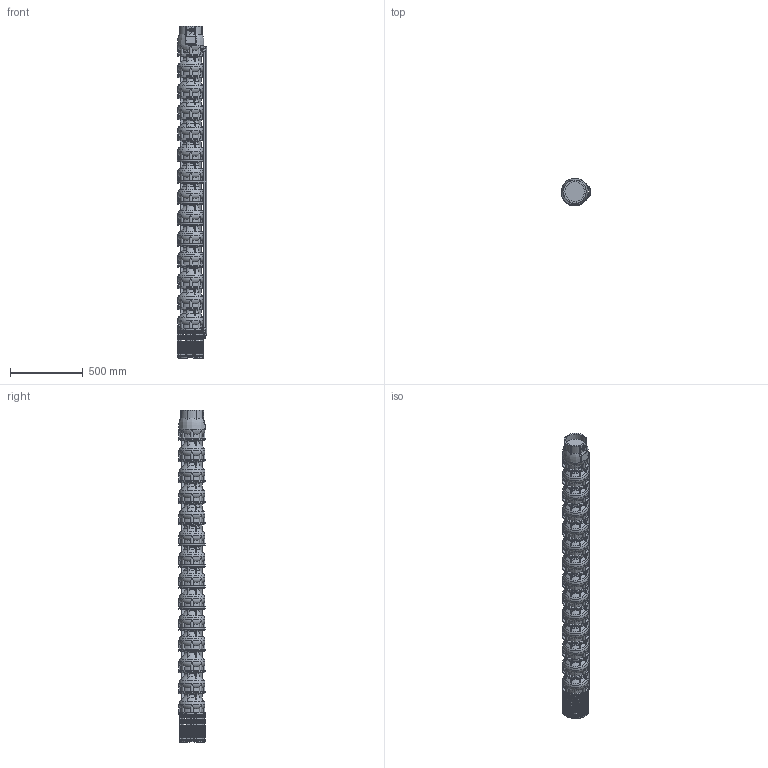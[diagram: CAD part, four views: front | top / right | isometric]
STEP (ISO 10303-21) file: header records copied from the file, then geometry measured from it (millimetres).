
FILE_DESCRIPTION(/* description */ ('Unknown'),/* implementation_level */ '2;1');
FILE_NAME(/* name */ 'VSI134-13_WR_M8-50_DLE',/* time_stamp */ '2023-09-14T14:36:01+02:00',/* author */ ('Unknown'),/* organization */ ('Unknown'),/* preprocessor_version */ 'ST-DEVELOPER v18.102',/* originating_system */ 'Solid Edge',/* authorisation */ 'Unknown');
FILE_SCHEMA (('FEATURE_BASED_PROCESS_PLANNING','PROCESS_PLANNING_SCHEMA','AUTOMOTIVE_DESIGN {1 0 10303 214 3 1 1}'));
Products named in the file (11): VSI134-13_WR_M8-50_DLE; VSI134_testata; VSI134_diffusore; VSI134_supporto_8×8; VSI134_filtro_A; VSI134_filtro_B; VSI134_terminale_top_copricavo_basso; VSI134_terminale_bottom_copricavo_basso; LOW 134-13; M5X8_UNI7687; VSI134_giunto_8×8
Assembly tree (31 placements, depth 2):
  VSI134-13_WR_M8-50_DLE
    VSI134_testata
    VSI134_diffusore  x13
    VSI134_supporto_8×8
    VSI134_filtro_A
    VSI134_filtro_B
    VSI134_terminale_top_copricavo_basso
    VSI134_terminale_bottom_copricavo_basso
    LOW 134-13
    M5X8_UNI7687  x10
    VSI134_giunto_8×8
Bounding box: 201.57 x 183.52 x 2282 mm (x, y, z)
Volume: 41772127.4 mm3; surface area: 3058486.9 mm2
Topology: 70 solids, 72 shells, 4645 faces, 13125 edges, 8763 vertices
Faces by surface type: plane 3327, torus 613, cylinder 598, cone 64, bspline 31, sphere 12
Full cylindrical faces by diameter (mm): 2.4 x2, 3 x2, 4.2 x16, 5 x10, 5.5 x8, 26 x1, 44 x1, 69 x1, 74 x1, 98 x1, 135.472 x1, 157 x1, 182 x14
Entity records: 85561 total; most frequent: CARTESIAN_POINT 18364, ORIENTED_EDGE 14056, DIRECTION 13492, EDGE_CURVE 7028, VERTEX_POINT 4730, AXIS2_PLACEMENT_3D 4597, LINE 4298, VECTOR 4298
